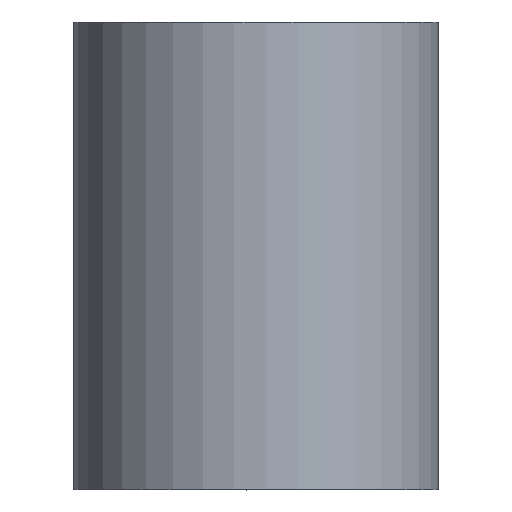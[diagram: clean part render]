
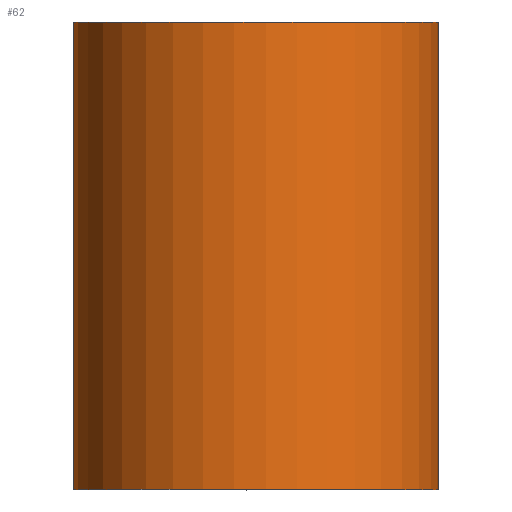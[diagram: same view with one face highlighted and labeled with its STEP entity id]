
A CAD part, top view. The second image highlights one B-rep face of the part: STEP entity #62.
In plain terms, the highlighted cylindrical face has radius 2.5 mm (diameter 5 mm), a full revolution.
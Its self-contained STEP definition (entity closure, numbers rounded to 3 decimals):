
#20=FACE_OUTER_BOUND('',#24,.T.);
#24=EDGE_LOOP('',(#51,#52,#53,#54));
#30=LINE('',#118,#32);
#32=VECTOR('',#100,2.5);
#35=CIRCLE('',#83,2.5);
#36=CIRCLE('',#84,2.5);
#39=VERTEX_POINT('',#115);
#40=VERTEX_POINT('',#117);
#44=EDGE_CURVE('',#39,#39,#35,.T.);
#45=EDGE_CURVE('',#39,#40,#30,.T.);
#46=EDGE_CURVE('',#40,#40,#36,.T.);
#51=ORIENTED_EDGE('',*,*,#44,.F.);
#52=ORIENTED_EDGE('',*,*,#45,.T.);
#53=ORIENTED_EDGE('',*,*,#46,.T.);
#54=ORIENTED_EDGE('',*,*,#45,.F.);
#60=CYLINDRICAL_SURFACE('',#82,2.5);
#62=ADVANCED_FACE('',(#20),#60,.T.);
#82=AXIS2_PLACEMENT_3D('',#114,#96,#97);
#83=AXIS2_PLACEMENT_3D('',#116,#98,#99);
#84=AXIS2_PLACEMENT_3D('',#119,#101,#102);
#96=DIRECTION('center_axis',(0.,-1.,0.));
#97=DIRECTION('ref_axis',(0.602,0.,-0.799));
#98=DIRECTION('center_axis',(0.,-1.,0.));
#99=DIRECTION('ref_axis',(0.602,0.,-0.799));
#100=DIRECTION('',(0.,1.,0.));
#101=DIRECTION('center_axis',(0.,-1.,0.));
#102=DIRECTION('ref_axis',(0.602,0.,-0.799));
#114=CARTESIAN_POINT('Origin',(0.024,-1.7,-97.028));
#115=CARTESIAN_POINT('',(-1.48,-8.1,-95.032));
#116=CARTESIAN_POINT('Origin',(0.024,-8.1,-97.028));
#117=CARTESIAN_POINT('',(-1.48,-1.7,-95.032));
#118=CARTESIAN_POINT('',(-1.48,-1.7,-95.032));
#119=CARTESIAN_POINT('Origin',(0.024,-1.7,-97.028));
